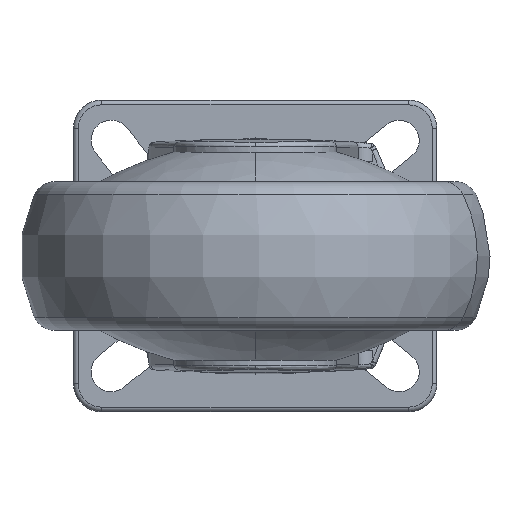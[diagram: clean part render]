
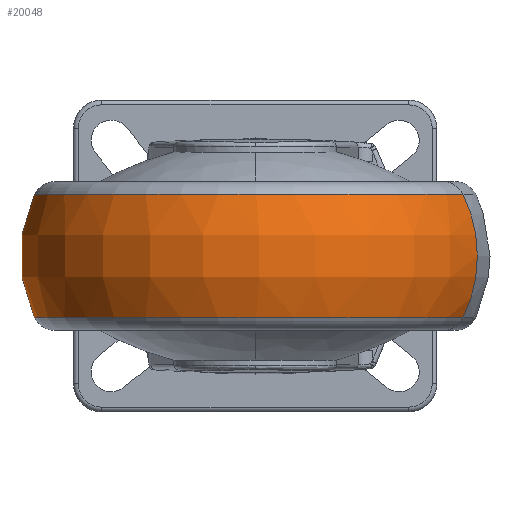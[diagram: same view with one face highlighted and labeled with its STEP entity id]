
A CAD part, front view. The second image highlights one B-rep face of the part: STEP entity #20048.
In plain terms, the highlighted toroidal (fillet/blend) face has major radius 22 mm and minor radius 28 mm.
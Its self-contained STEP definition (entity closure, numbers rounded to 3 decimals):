
#14695 = CIRCLE ( 'NONE', #14738, 46.753 ) ;
#14729 = DIRECTION ( 'NONE',  ( -0.941, 0.338, 0. ) ) ;
#14730 = DIRECTION ( 'NONE',  ( 0., 0., -1. ) ) ;
#14736 = CARTESIAN_POINT ( 'NONE',  ( 2.153, -40.926, -13.52 ) ) ;
#14738 = AXIS2_PLACEMENT_3D ( 'NONE', #14736, #14730, #14729 ) ;
#14766 = CARTESIAN_POINT ( 'NONE',  ( 2.153, -40.926, -0.432 ) ) ;
#14768 = TOROIDAL_SURFACE ( 'NONE', #14819, 22., 28. ) ;
#14770 = DIRECTION ( 'NONE',  ( -0.941, 0.338, 0. ) ) ;
#14819 = AXIS2_PLACEMENT_3D ( 'NONE', #14766, #14820, #14770 ) ;
#14820 = DIRECTION ( 'NONE',  ( 0., 0., -1. ) ) ;
#14835 = FACE_OUTER_BOUND ( 'NONE', #20082, .T. ) ;
#19971 = ORIENTED_EDGE ( 'NONE', *, *, #21809, .F. ) ;
#19983 = EDGE_CURVE ( 'NONE', #21776, #21753, #14695, .T. ) ;
#20038 = ORIENTED_EDGE ( 'NONE', *, *, #21767, .T. ) ;
#20048 = ADVANCED_FACE ( 'NONE', ( #14835 ), #14768, .T. ) ;
#20056 = ORIENTED_EDGE ( 'NONE', *, *, #19983, .F. ) ;
#20082 = EDGE_LOOP ( 'NONE', ( #19971, #20098, #20038, #20056 ) ) ;
#20098 = ORIENTED_EDGE ( 'NONE', *, *, #22217, .T. ) ;
#20934 = VERTEX_POINT ( 'NONE', #24130 ) ;
#21753 = VERTEX_POINT ( 'NONE', #24865 ) ;
#21767 = EDGE_CURVE ( 'NONE', #20934, #21753, #24867, .T. ) ;
#21776 = VERTEX_POINT ( 'NONE', #24895 ) ;
#21809 = EDGE_CURVE ( 'NONE', #22231, #21776, #24883, .T. ) ;
#22217 = EDGE_CURVE ( 'NONE', #22231, #20934, #25818, .T. ) ;
#22231 = VERTEX_POINT ( 'NONE', #25793 ) ;
#24130 = CARTESIAN_POINT ( 'NONE',  ( -41.854, -25.14, 12.655 ) ) ;
#24838 = AXIS2_PLACEMENT_3D ( 'NONE', #24929, #24919, #24918 ) ;
#24865 = CARTESIAN_POINT ( 'NONE',  ( -41.854, -25.14, -13.52 ) ) ;
#24867 = CIRCLE ( 'NONE', #24898, 28. ) ;
#24883 = CIRCLE ( 'NONE', #24838, 28. ) ;
#24892 = DIRECTION ( 'NONE',  ( 0.941, -0.338, 0. ) ) ;
#24893 = DIRECTION ( 'NONE',  ( -0.338, -0.941, 0. ) ) ;
#24894 = CARTESIAN_POINT ( 'NONE',  ( -18.555, -33.498, -0.432 ) ) ;
#24895 = CARTESIAN_POINT ( 'NONE',  ( 46.16, -56.713, -13.52 ) ) ;
#24898 = AXIS2_PLACEMENT_3D ( 'NONE', #24894, #24893, #24892 ) ;
#24918 = DIRECTION ( 'NONE',  ( -0.941, 0.338, 0. ) ) ;
#24919 = DIRECTION ( 'NONE',  ( 0.338, 0.941, 0. ) ) ;
#24929 = CARTESIAN_POINT ( 'NONE',  ( 22.861, -48.355, -0.432 ) ) ;
#25793 = CARTESIAN_POINT ( 'NONE',  ( 46.16, -56.713, 12.655 ) ) ;
#25818 = CIRCLE ( 'NONE', #25856, 46.753 ) ;
#25853 = DIRECTION ( 'NONE',  ( -0.941, 0.338, 0. ) ) ;
#25854 = DIRECTION ( 'NONE',  ( 0., 0., -1. ) ) ;
#25855 = CARTESIAN_POINT ( 'NONE',  ( 2.153, -40.926, 12.655 ) ) ;
#25856 = AXIS2_PLACEMENT_3D ( 'NONE', #25855, #25854, #25853 ) ;
